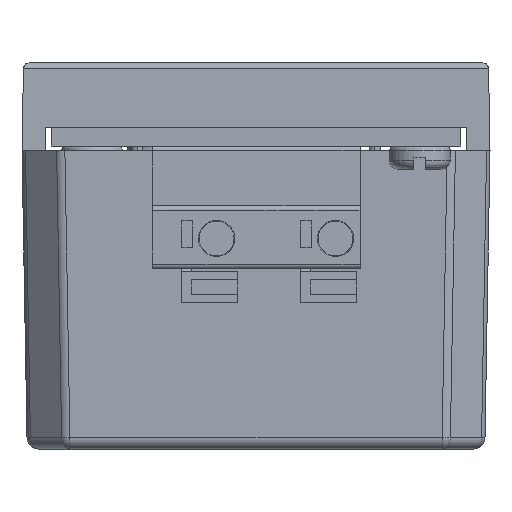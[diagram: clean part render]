
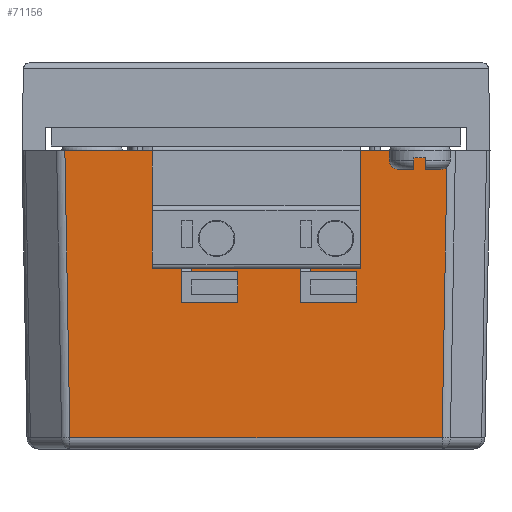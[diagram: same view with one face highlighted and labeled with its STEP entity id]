
A CAD part, left-side view. The second image highlights one B-rep face of the part: STEP entity #71156.
In plain terms, the highlighted planar face has unit normal (-1, 0, -0.018).
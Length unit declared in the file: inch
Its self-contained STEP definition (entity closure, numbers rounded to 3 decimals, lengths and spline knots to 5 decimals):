
#2523 = AXIS2_PLACEMENT_3D ( 'NONE', #31232, #88619, #89071 ) ;
#3600 = EDGE_LOOP ( 'NONE', ( #82021, #46457, #5166, #67593 ) ) ;
#4049 = VERTEX_POINT ( 'NONE', #11894 ) ;
#5166 = ORIENTED_EDGE ( 'NONE', *, *, #47530, .F. ) ;
#7792 = CARTESIAN_POINT ( 'NONE',  ( -0.07283, 1.35966, 0.8189 ) ) ;
#9294 = FACE_OUTER_BOUND ( 'NONE', #3600, .T. ) ;
#10680 = DIRECTION ( 'NONE',  ( -0.017, 0.017, 1. ) ) ;
#11894 = CARTESIAN_POINT ( 'NONE',  ( -0.05599, 0.09026, -0.14636 ) ) ;
#12633 = DIRECTION ( 'NONE',  ( 0., 1., 0. ) ) ;
#17527 = LINE ( 'NONE', #82142, #32767 ) ;
#24266 = CARTESIAN_POINT ( 'NONE',  ( -0.05599, 1.34281, -0.14636 ) ) ;
#28584 = CARTESIAN_POINT ( 'NONE',  ( -0.07283, 0.07341, 0.8189 ) ) ;
#31232 = CARTESIAN_POINT ( 'NONE',  ( -0.07283, 1.57761, 0.8189 ) ) ;
#31745 = LINE ( 'NONE', #45553, #62024 ) ;
#31804 = LINE ( 'NONE', #46963, #83614 ) ;
#32767 = VECTOR ( 'NONE', #10680, 39.37008 ) ;
#33595 = DIRECTION ( 'NONE',  ( 0.017, 0.017, -1. ) ) ;
#37216 = PLANE ( 'NONE',  #2523 ) ;
#45553 = CARTESIAN_POINT ( 'NONE',  ( -0.05599, 1.34281, -0.14636 ) ) ;
#46457 = ORIENTED_EDGE ( 'NONE', *, *, #53401, .T. ) ;
#46963 = CARTESIAN_POINT ( 'NONE',  ( -0.07283, 0.07341, 0.8189 ) ) ;
#47530 = EDGE_CURVE ( 'NONE', #79439, #61462, #17527, .T. ) ;
#49818 = VECTOR ( 'NONE', #33595, 39.37008 ) ;
#53401 = EDGE_CURVE ( 'NONE', #86253, #61462, #31804, .T. ) ;
#55649 = LINE ( 'NONE', #28584, #49818 ) ;
#59790 = DIRECTION ( 'NONE',  ( 0., -1., 0. ) ) ;
#61462 = VERTEX_POINT ( 'NONE', #7792 ) ;
#62024 = VECTOR ( 'NONE', #59790, 39.37008 ) ;
#64879 = EDGE_CURVE ( 'NONE', #79439, #4049, #31745, .T. ) ;
#67593 = ORIENTED_EDGE ( 'NONE', *, *, #64879, .T. ) ;
#71156 = ADVANCED_FACE ( 'NONE', ( #9294 ), #37216, .T. ) ;
#71907 = CARTESIAN_POINT ( 'NONE',  ( -0.07283, 0.07341, 0.8189 ) ) ;
#79439 = VERTEX_POINT ( 'NONE', #24266 ) ;
#82021 = ORIENTED_EDGE ( 'NONE', *, *, #88786, .F. ) ;
#82142 = CARTESIAN_POINT ( 'NONE',  ( -0.05599, 1.34281, -0.14636 ) ) ;
#83614 = VECTOR ( 'NONE', #12633, 39.37008 ) ;
#86253 = VERTEX_POINT ( 'NONE', #71907 ) ;
#88619 = DIRECTION ( 'NONE',  ( -1., 0., -0.017 ) ) ;
#88786 = EDGE_CURVE ( 'NONE', #86253, #4049, #55649, .T. ) ;
#89071 = DIRECTION ( 'NONE',  ( -0.017, 0., 1. ) ) ;
